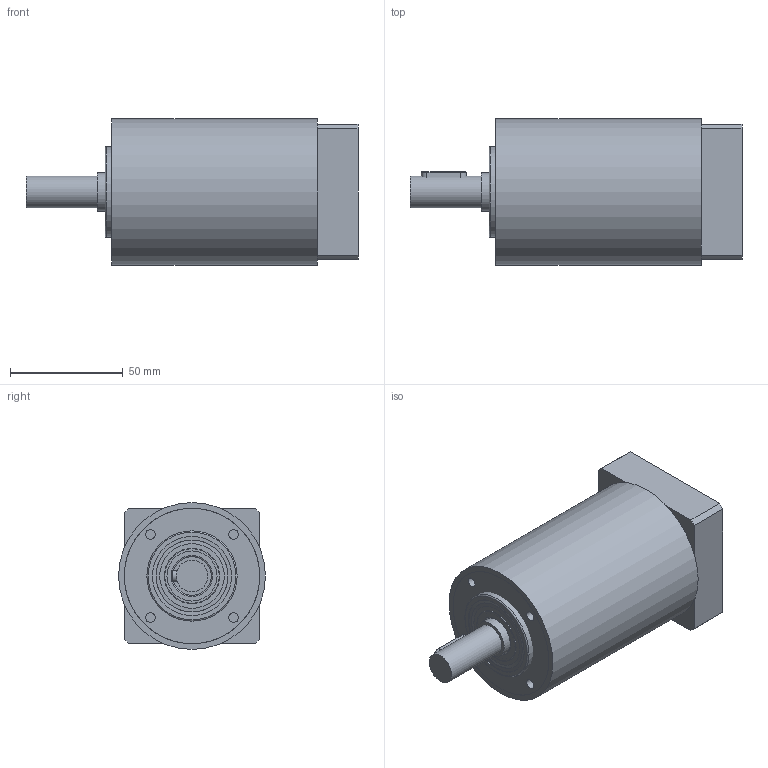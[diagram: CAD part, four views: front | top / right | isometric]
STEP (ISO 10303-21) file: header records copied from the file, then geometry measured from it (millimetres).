
FILE_DESCRIPTION(/* description */ (''),/* implementation_level */ '2;1');
FILE_NAME(/* name */ 'E00017964713MP040509081508_step214.stp',/* time_stamp */ '2009-05-04T08:17:01+02:00',/* author */ (''),/* organization */ (''),/* preprocessor_version */ 'ST-DEVELOPER v11',/* originating_system */ 'UGS - NX 5.0',/* authorisation */ '');
FILE_SCHEMA (('AUTOMOTIVE_DESIGN { 1 0 10303 214 0 1 1 1 }'));
Length unit declared in the file: millimetre
Products named in the file (1): E00017964713MP040509081508_M
Bounding box: 146.95 x 65 x 65 mm (x, y, z)
Volume: 429494.1 mm3; surface area: 75497.1 mm2
Topology: 12 solids, 12 shells, 135 faces, 279 edges, 177 vertices
Faces by surface type: cylinder 51, plane 48, cone 26, torus 10
Full cylindrical faces by diameter (mm): 3.432 x9, 4.351 x4, 4.5 x1, 6.35 x1, 7.5 x1, 9.75 x1, 10 x1, 14 x1, 15 x1, 17 x2, 22.2 x2, 24.5 x2, 32.9 x2, 35 x4, 35.5 x1, 38.1 x1, 40 x1, 43 x1, 50 x1, 57.4 x1, 59.85 x1, 60 x2, 65 x1
Entity records: 3165 total; most frequent: DIRECTION 564, CARTESIAN_POINT 539, ORIENTED_EDGE 352, AXIS2_PLACEMENT_3D 255, EDGE_LOOP 234, FACE_BOUND 210, EDGE_CURVE 176, VERTEX_POINT 160
